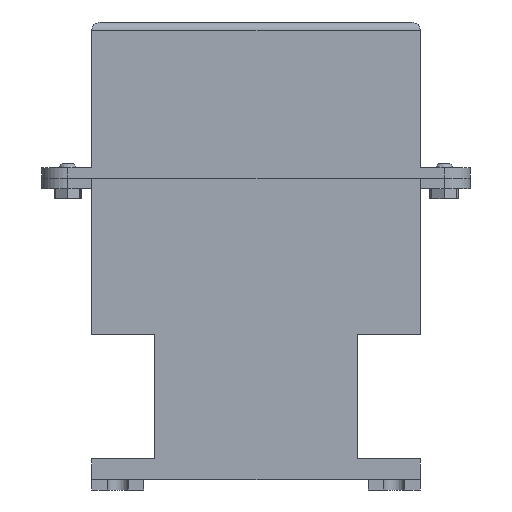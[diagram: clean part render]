
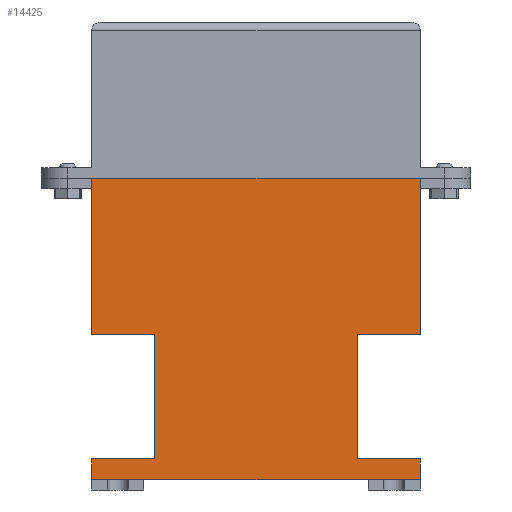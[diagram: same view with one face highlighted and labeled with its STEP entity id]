
A CAD part, left-side view. The second image highlights one B-rep face of the part: STEP entity #14425.
In plain terms, the highlighted planar face has unit normal (-1, 0, 0).
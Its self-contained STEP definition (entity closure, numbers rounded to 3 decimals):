
#1535=FACE_OUTER_BOUND('',#2355,.T.);
#2355=EDGE_LOOP('',(#12237,#12238,#12239,#12240,#12241,#12242,#12243,#12244,
#12245,#12246,#12247,#12248));
#3592=LINE('',#24824,#5096);
#3607=LINE('',#24860,#5111);
#3613=LINE('',#24872,#5117);
#3623=LINE('',#24888,#5127);
#3628=LINE('',#24899,#5132);
#3631=LINE('',#24904,#5135);
#3665=LINE('',#24987,#5169);
#3666=LINE('',#24990,#5170);
#3668=LINE('',#24993,#5172);
#3669=LINE('',#24995,#5173);
#3671=LINE('',#24999,#5175);
#3672=LINE('',#25001,#5176);
#5096=VECTOR('',#17101,10.);
#5111=VECTOR('',#17126,10.);
#5117=VECTOR('',#17136,10.);
#5127=VECTOR('',#17148,10.);
#5132=VECTOR('',#17157,10.);
#5135=VECTOR('',#17162,10.);
#5169=VECTOR('',#17258,10.);
#5170=VECTOR('',#17261,10.);
#5172=VECTOR('',#17265,10.);
#5173=VECTOR('',#17268,10.);
#5175=VECTOR('',#17272,10.);
#5176=VECTOR('',#17275,10.);
#6597=VERTEX_POINT('',#24821);
#6598=VERTEX_POINT('',#24823);
#6613=VERTEX_POINT('',#24857);
#6614=VERTEX_POINT('',#24859);
#6617=VERTEX_POINT('',#24869);
#6618=VERTEX_POINT('',#24871);
#6626=VERTEX_POINT('',#24896);
#6627=VERTEX_POINT('',#24898);
#6628=VERTEX_POINT('',#24902);
#6646=VERTEX_POINT('',#24985);
#6647=VERTEX_POINT('',#24989);
#6648=VERTEX_POINT('',#24997);
#8495=EDGE_CURVE('',#6598,#6597,#3592,.T.);
#8513=EDGE_CURVE('',#6614,#6613,#3607,.T.);
#8519=EDGE_CURVE('',#6618,#6617,#3613,.T.);
#8529=EDGE_CURVE('',#6598,#6617,#3623,.T.);
#8534=EDGE_CURVE('',#6626,#6627,#3628,.T.);
#8537=EDGE_CURVE('',#6626,#6628,#3631,.T.);
#8577=EDGE_CURVE('',#6597,#6646,#3665,.T.);
#8578=EDGE_CURVE('',#6647,#6614,#3666,.T.);
#8580=EDGE_CURVE('',#6646,#6647,#3668,.T.);
#8581=EDGE_CURVE('',#6628,#6618,#3669,.T.);
#8583=EDGE_CURVE('',#6613,#6648,#3671,.T.);
#8584=EDGE_CURVE('',#6627,#6648,#3672,.T.);
#12237=ORIENTED_EDGE('',*,*,#8580,.T.);
#12238=ORIENTED_EDGE('',*,*,#8578,.T.);
#12239=ORIENTED_EDGE('',*,*,#8513,.T.);
#12240=ORIENTED_EDGE('',*,*,#8583,.T.);
#12241=ORIENTED_EDGE('',*,*,#8584,.F.);
#12242=ORIENTED_EDGE('',*,*,#8534,.F.);
#12243=ORIENTED_EDGE('',*,*,#8537,.T.);
#12244=ORIENTED_EDGE('',*,*,#8581,.T.);
#12245=ORIENTED_EDGE('',*,*,#8519,.T.);
#12246=ORIENTED_EDGE('',*,*,#8529,.F.);
#12247=ORIENTED_EDGE('',*,*,#8495,.T.);
#12248=ORIENTED_EDGE('',*,*,#8577,.T.);
#13611=PLANE('',#15082);
#14425=ADVANCED_FACE('',(#1535),#13611,.T.);
#15082=AXIS2_PLACEMENT_3D('',#25000,#17273,#17274);
#17101=DIRECTION('',(0.,1.,0.));
#17126=DIRECTION('',(0.,1.,0.));
#17136=DIRECTION('',(0.,-1.,0.));
#17148=DIRECTION('',(0.,0.,-1.));
#17157=DIRECTION('',(0.,0.,-1.));
#17162=DIRECTION('',(0.,1.,0.));
#17258=DIRECTION('',(0.,0.,-1.));
#17261=DIRECTION('',(0.,0.,-1.));
#17265=DIRECTION('',(0.,-1.,0.));
#17268=DIRECTION('',(0.,0.,1.));
#17272=DIRECTION('',(0.,0.,-1.));
#17273=DIRECTION('center_axis',(-1.,0.,0.));
#17274=DIRECTION('ref_axis',(0.,1.,0.));
#17275=DIRECTION('',(0.,1.,0.));
#24821=CARTESIAN_POINT('',(-10.,158.,0.));
#24823=CARTESIAN_POINT('',(-10.,0.,0.));
#24824=CARTESIAN_POINT('',(-10.,0.,0.));
#24857=CARTESIAN_POINT('',(-10.,158.,-135.));
#24859=CARTESIAN_POINT('',(-10.,128.,-135.));
#24860=CARTESIAN_POINT('',(-10.,64.,-135.));
#24869=CARTESIAN_POINT('',(-10.,0.,-75.));
#24871=CARTESIAN_POINT('',(-10.,30.,-75.));
#24872=CARTESIAN_POINT('',(-10.,15.,-75.));
#24888=CARTESIAN_POINT('',(-10.,0.,0.));
#24896=CARTESIAN_POINT('',(-10.,0.,-135.));
#24898=CARTESIAN_POINT('',(-10.,0.,-145.));
#24899=CARTESIAN_POINT('',(-10.,0.,0.));
#24902=CARTESIAN_POINT('',(-10.,30.,-135.));
#24904=CARTESIAN_POINT('',(-10.,0.,-135.));
#24985=CARTESIAN_POINT('',(-10.,158.,-75.));
#24987=CARTESIAN_POINT('',(-10.,158.,0.));
#24989=CARTESIAN_POINT('',(-10.,128.,-75.));
#24990=CARTESIAN_POINT('',(-10.,128.,-37.5));
#24993=CARTESIAN_POINT('',(-10.,79.,-75.));
#24995=CARTESIAN_POINT('',(-10.,30.,-67.5));
#24997=CARTESIAN_POINT('',(-10.,158.,-145.));
#24999=CARTESIAN_POINT('',(-10.,158.,0.));
#25000=CARTESIAN_POINT('Origin',(-10.,0.,0.));
#25001=CARTESIAN_POINT('',(-10.,0.,-145.));
